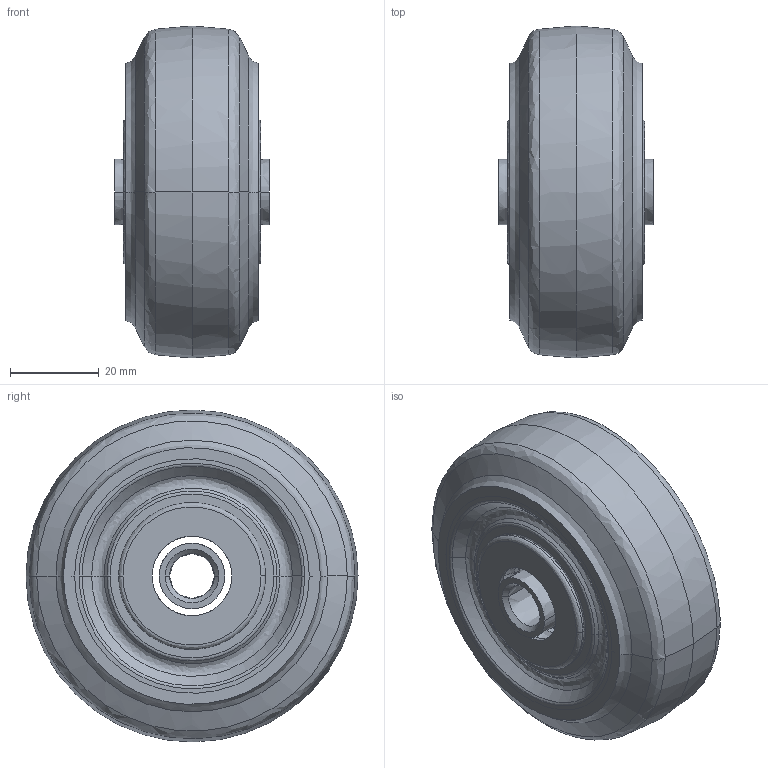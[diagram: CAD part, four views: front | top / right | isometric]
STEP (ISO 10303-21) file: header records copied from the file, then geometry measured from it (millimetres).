
FILE_DESCRIPTION (( 'STEP AP214' ), '1' );
FILE_NAME ('GR-75W-3D-step.STEP', '2022-03-30T02:50:12', ( '' ), ( '' ), 'SwSTEP 2.0', 'SolidWorks 2010', '' );
FILE_SCHEMA (( 'AUTOMOTIVE_DESIGN' ));
Length unit declared in the file: millimetre
Products named in the file (6): GR-75W-50; GR-75W-51; GR-75W-52; GR-75W-53; GR-75W-54; GR-75W-3D-step
Assembly tree (5 placements, depth 2):
  GR-75W-3D-step
    GR-75W-52
    GR-75W-53
    GR-75W-54
    GR-75W-50
    GR-75W-51
Bounding box: 35 x 75 x 74.99 mm (x, y, z)
Volume: 61298.3 mm3; surface area: 46215.9 mm2
Topology: 7 solids, 7 shells, 224 faces, 448 edges, 254 vertices
Faces by surface type: bspline 194, plane 30
Entity records: 35196 total; most frequent: CARTESIAN_POINT 31624, ORIENTED_EDGE 896, EDGE_CURVE 448, B_SPLINE_CURVE_WITH_KNOTS 350, EDGE_LOOP 254, VERTEX_POINT 254, FACE_OUTER_BOUND 224, ADVANCED_FACE 224
